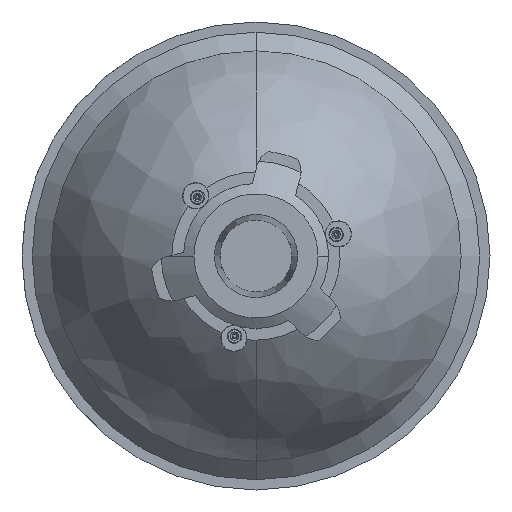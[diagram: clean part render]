
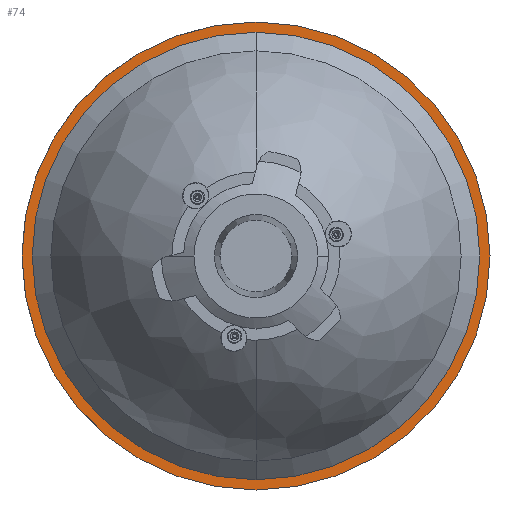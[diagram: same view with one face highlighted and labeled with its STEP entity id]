
A CAD part, front view. The second image highlights one B-rep face of the part: STEP entity #74.
In plain terms, the highlighted planar face has unit normal (0, -1, 0).
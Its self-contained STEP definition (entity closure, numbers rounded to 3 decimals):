
#74 = ADVANCED_FACE ( 'NONE', ( #6518, #6512 ), #6520, .F. ) ;
#267 = EDGE_CURVE ( 'NONE', #7209, #7205, #7315, .T. ) ;
#336 = EDGE_CURVE ( 'NONE', #7205, #7209, #1576, .T. ) ;
#765 = CIRCLE ( 'NONE', #768, 36.5 ) ;
#768 = AXIS2_PLACEMENT_3D ( 'NONE', #2855, #2856, #2857 ) ;
#921 = VERTEX_POINT ( 'NONE', #2072 ) ;
#1326 = EDGE_LOOP ( 'NONE', ( #1370, #1965 ) ) ;
#1370 = ORIENTED_EDGE ( 'NONE', *, *, #1898, .F. ) ;
#1576 = CIRCLE ( 'NONE', #2318, 34.905 ) ;
#1783 = CARTESIAN_POINT ( 'NONE',  ( 0., -1.65, 0. ) ) ;
#1784 = DIRECTION ( 'NONE',  ( 0., -1., 0. ) ) ;
#1785 = DIRECTION ( 'NONE',  ( 0., 0., 1. ) ) ;
#1898 = EDGE_CURVE ( 'NONE', #921, #2404, #7386, .T. ) ;
#1965 = ORIENTED_EDGE ( 'NONE', *, *, #4868, .F. ) ;
#2072 = CARTESIAN_POINT ( 'NONE',  ( 0., -1.65, -36.5 ) ) ;
#2318 = AXIS2_PLACEMENT_3D ( 'NONE', #5994, #5996, #5997 ) ;
#2404 = VERTEX_POINT ( 'NONE', #3523 ) ;
#2855 = CARTESIAN_POINT ( 'NONE',  ( 0., -1.65, 0. ) ) ;
#2856 = DIRECTION ( 'NONE',  ( 0., 1., 0. ) ) ;
#2857 = DIRECTION ( 'NONE',  ( 0., 0., -1. ) ) ;
#3523 = CARTESIAN_POINT ( 'NONE',  ( 0., -1.65, 36.5 ) ) ;
#4069 = CARTESIAN_POINT ( 'NONE',  ( 0., -1.65, -34.905 ) ) ;
#4073 = CARTESIAN_POINT ( 'NONE',  ( 0., -1.65, 34.905 ) ) ;
#4595 = EDGE_LOOP ( 'NONE', ( #5581, #5493 ) ) ;
#4868 = EDGE_CURVE ( 'NONE', #2404, #921, #765, .T. ) ;
#5493 = ORIENTED_EDGE ( 'NONE', *, *, #336, .F. ) ;
#5581 = ORIENTED_EDGE ( 'NONE', *, *, #267, .F. ) ;
#5994 = CARTESIAN_POINT ( 'NONE',  ( 0., -1.65, 0. ) ) ;
#5996 = DIRECTION ( 'NONE',  ( 0., -1., 0. ) ) ;
#5997 = DIRECTION ( 'NONE',  ( 0., 0., 1. ) ) ;
#6512 = FACE_BOUND ( 'NONE', #4595, .T. ) ;
#6515 = DIRECTION ( 'NONE',  ( 0., 1., 0. ) ) ;
#6517 = CARTESIAN_POINT ( 'NONE',  ( -25.809, -1.65, -25.809 ) ) ;
#6518 = FACE_OUTER_BOUND ( 'NONE', #1326, .T. ) ;
#6520 = PLANE ( 'NONE',  #8084 ) ;
#6522 = DIRECTION ( 'NONE',  ( 0., 0., 1. ) ) ;
#6880 = CARTESIAN_POINT ( 'NONE',  ( 0., -1.65, 0. ) ) ;
#6881 = DIRECTION ( 'NONE',  ( 0., 1., 0. ) ) ;
#6882 = DIRECTION ( 'NONE',  ( 0., 0., -1. ) ) ;
#7205 = VERTEX_POINT ( 'NONE', #4069 ) ;
#7209 = VERTEX_POINT ( 'NONE', #4073 ) ;
#7302 = AXIS2_PLACEMENT_3D ( 'NONE', #1783, #1784, #1785 ) ;
#7315 = CIRCLE ( 'NONE', #7302, 34.905 ) ;
#7386 = CIRCLE ( 'NONE', #7389, 36.5 ) ;
#7389 = AXIS2_PLACEMENT_3D ( 'NONE', #6880, #6881, #6882 ) ;
#8084 = AXIS2_PLACEMENT_3D ( 'NONE', #6517, #6515, #6522 ) ;
